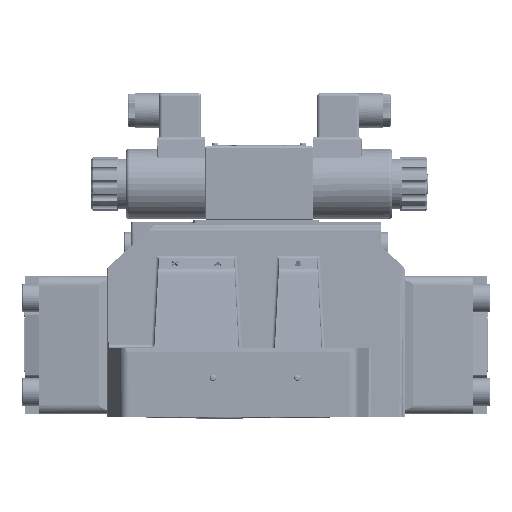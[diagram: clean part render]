
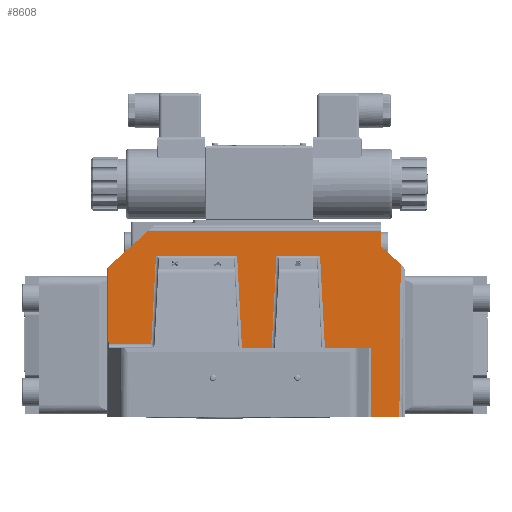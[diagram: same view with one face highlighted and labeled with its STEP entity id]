
A CAD part, front view. The second image highlights one B-rep face of the part: STEP entity #8608.
In plain terms, the highlighted planar face has unit normal (0, -1, 0.017).
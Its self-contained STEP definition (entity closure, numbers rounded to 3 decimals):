
#678=ELLIPSE('',#42687,93.126,1.539);
#679=ELLIPSE('',#42688,242.033,4.);
#4540=FACE_OUTER_BOUND('',#18975,.T.);
#8608=ADVANCED_FACE('',(#4540),#10208,.F.);
#10208=PLANE('',#42689);
#12434=LINE('',#158163,#15198);
#12452=LINE('',#158239,#15216);
#12463=LINE('',#158298,#15227);
#12469=LINE('',#158354,#15233);
#12477=LINE('',#158393,#15241);
#12488=LINE('',#158452,#15252);
#12509=LINE('',#158608,#15273);
#12512=LINE('',#158614,#15276);
#12513=LINE('',#158620,#15277);
#12516=LINE('',#158624,#15280);
#12517=LINE('',#158628,#15281);
#12523=LINE('',#158647,#15287);
#12524=LINE('',#158649,#15288);
#12525=LINE('',#158651,#15289);
#12555=LINE('',#158908,#15319);
#12556=LINE('',#158910,#15320);
#15198=VECTOR('',#50123,1.);
#15216=VECTOR('',#50189,1.);
#15227=VECTOR('',#50244,1.);
#15233=VECTOR('',#50266,1.);
#15241=VECTOR('',#50300,1.);
#15252=VECTOR('',#50329,1.);
#15273=VECTOR('',#50410,1.);
#15276=VECTOR('',#50417,1.);
#15277=VECTOR('',#50424,1.);
#15280=VECTOR('',#50429,1.);
#15281=VECTOR('',#50434,1.);
#15287=VECTOR('',#50464,1.);
#15288=VECTOR('',#50467,1.);
#15289=VECTOR('',#50470,1.);
#15319=VECTOR('',#50570,1.);
#15320=VECTOR('',#50573,1.);
#18975=EDGE_LOOP('',(#26905,#26906,#26907,#26908,#26909,#26910,#26911,#26912,
#26913,#26914,#26915,#26916,#26917,#26918,#26919,#26920,#26921,#26922));
#26905=ORIENTED_EDGE('',*,*,#37223,.F.);
#26906=ORIENTED_EDGE('',*,*,#37489,.T.);
#26907=ORIENTED_EDGE('',*,*,#37475,.F.);
#26908=ORIENTED_EDGE('',*,*,#37391,.T.);
#26909=ORIENTED_EDGE('',*,*,#37403,.T.);
#26910=ORIENTED_EDGE('',*,*,#37415,.T.);
#26911=ORIENTED_EDGE('',*,*,#37401,.T.);
#26912=ORIENTED_EDGE('',*,*,#37257,.T.);
#26913=ORIENTED_EDGE('',*,*,#37398,.T.);
#26914=ORIENTED_EDGE('',*,*,#37414,.T.);
#26915=ORIENTED_EDGE('',*,*,#37395,.T.);
#26916=ORIENTED_EDGE('',*,*,#37284,.F.);
#26917=ORIENTED_EDGE('',*,*,#37474,.T.);
#26918=ORIENTED_EDGE('',*,*,#37299,.T.);
#26919=ORIENTED_EDGE('',*,*,#37490,.F.);
#26920=ORIENTED_EDGE('',*,*,#37319,.F.);
#26921=ORIENTED_EDGE('',*,*,#37340,.F.);
#26922=ORIENTED_EDGE('',*,*,#37416,.F.);
#32610=VERTEX_POINT('',#158162);
#32611=VERTEX_POINT('',#158164);
#32644=VERTEX_POINT('',#158238);
#32645=VERTEX_POINT('',#158240);
#32671=VERTEX_POINT('',#158299);
#32672=VERTEX_POINT('',#158300);
#32686=VERTEX_POINT('',#158353);
#32687=VERTEX_POINT('',#158355);
#32704=VERTEX_POINT('',#158392);
#32705=VERTEX_POINT('',#158394);
#32723=VERTEX_POINT('',#158451);
#32752=VERTEX_POINT('',#158598);
#32755=VERTEX_POINT('',#158609);
#32756=VERTEX_POINT('',#158615);
#32757=VERTEX_POINT('',#158619);
#32758=VERTEX_POINT('',#158625);
#32759=VERTEX_POINT('',#158629);
#32800=VERTEX_POINT('',#158911);
#37223=EDGE_CURVE('',#32610,#32611,#12434,.T.);
#37257=EDGE_CURVE('',#32645,#32644,#12452,.T.);
#37284=EDGE_CURVE('',#32671,#32672,#12463,.T.);
#37299=EDGE_CURVE('',#32687,#32686,#12469,.T.);
#37319=EDGE_CURVE('',#32704,#32705,#12477,.T.);
#37340=EDGE_CURVE('',#32723,#32704,#12488,.T.);
#37391=EDGE_CURVE('',#32755,#32752,#12509,.T.);
#37395=EDGE_CURVE('',#32756,#32672,#12512,.T.);
#37398=EDGE_CURVE('',#32644,#32757,#12513,.T.);
#37401=EDGE_CURVE('',#32758,#32645,#12516,.T.);
#37403=EDGE_CURVE('',#32752,#32759,#12517,.T.);
#37414=EDGE_CURVE('',#32757,#32756,#12523,.T.);
#37415=EDGE_CURVE('',#32759,#32758,#12524,.T.);
#37416=EDGE_CURVE('',#32611,#32723,#12525,.T.);
#37474=EDGE_CURVE('',#32671,#32687,#12555,.T.);
#37475=EDGE_CURVE('',#32755,#32800,#12556,.T.);
#37489=EDGE_CURVE('',#32610,#32800,#678,.T.);
#37490=EDGE_CURVE('',#32705,#32686,#679,.T.);
#42687=AXIS2_PLACEMENT_3D('',#158934,#50595,#50596);
#42688=AXIS2_PLACEMENT_3D('',#158935,#50597,#50598);
#42689=AXIS2_PLACEMENT_3D('',#158936,#50599,#50600);
#50123=DIRECTION('',(0.742,0.011,0.67));
#50189=DIRECTION('',(1.,0.,0.));
#50244=DIRECTION('',(-1.,0.,0.));
#50266=DIRECTION('',(1.,0.,0.));
#50300=DIRECTION('',(0.742,-0.011,-0.67));
#50329=DIRECTION('',(0.,-0.017,-1.));
#50410=DIRECTION('',(1.,0.,0.));
#50417=DIRECTION('',(0.052,-0.017,-0.998));
#50424=DIRECTION('',(0.052,0.017,0.998));
#50429=DIRECTION('',(0.052,-0.017,-0.998));
#50434=DIRECTION('',(0.052,0.017,0.998));
#50464=DIRECTION('',(1.,0.,0.));
#50467=DIRECTION('',(1.,0.,0.));
#50470=DIRECTION('',(1.,0.,0.));
#50570=DIRECTION('',(-0.006,-0.017,-1.));
#50573=DIRECTION('',(-0.006,0.017,1.));
#50595=DIRECTION('',(0.,1.,-0.017));
#50596=DIRECTION('',(0.,-0.017,-1.));
#50597=DIRECTION('',(0.,-1.,0.017));
#50598=DIRECTION('',(0.,-0.017,-1.));
#50599=DIRECTION('',(0.,1.,-0.017));
#50600=DIRECTION('',(1.,0.,0.));
#158162=CARTESIAN_POINT('',(-18.998,4.02,603.85));
#158163=CARTESIAN_POINT('',(-4.703,4.234,616.762));
#158164=CARTESIAN_POINT('',(6.609,4.403,626.98));
#158238=CARTESIAN_POINT('',(85.495,3.171,552.447));
#158239=CARTESIAN_POINT('',(92.042,3.171,552.447));
#158240=CARTESIAN_POINT('',(66.507,3.171,552.447));
#158298=CARTESIAN_POINT('',(134.843,3.171,552.447));
#158299=CARTESIAN_POINT('',(149.288,3.171,552.447));
#158300=CARTESIAN_POINT('',(119.507,3.171,552.447));
#158353=CARTESIAN_POINT('',(167.128,2.435,507.947));
#158354=CARTESIAN_POINT('',(149.387,2.435,507.947));
#158355=CARTESIAN_POINT('',(149.012,2.435,507.947));
#158392=CARTESIAN_POINT('',(155.501,4.237,616.947));
#158393=CARTESIAN_POINT('',(170.544,4.012,603.36));
#158394=CARTESIAN_POINT('',(167.975,4.051,605.68));
#158451=CARTESIAN_POINT('',(155.501,4.403,626.98));
#158452=CARTESIAN_POINT('',(155.501,4.23,616.537));
#158598=CARTESIAN_POINT('',(8.598,3.203,554.414));
#158608=CARTESIAN_POINT('',(-20.537,3.203,554.414));
#158609=CARTESIAN_POINT('',(-18.724,3.203,554.414));
#158614=CARTESIAN_POINT('',(115.338,4.488,632.148));
#158615=CARTESIAN_POINT('',(116.433,4.142,611.212));
#158619=CARTESIAN_POINT('',(88.57,4.142,611.212));
#158620=CARTESIAN_POINT('',(88.078,3.987,601.815));
#158624=CARTESIAN_POINT('',(62.482,4.442,629.384));
#158625=CARTESIAN_POINT('',(63.433,4.142,611.212));
#158628=CARTESIAN_POINT('',(11.111,3.997,602.447));
#158629=CARTESIAN_POINT('',(11.57,4.142,611.212));
#158647=CARTESIAN_POINT('',(149.387,4.142,611.212));
#158649=CARTESIAN_POINT('',(149.387,4.142,611.212));
#158651=CARTESIAN_POINT('',(-19.999,4.403,626.98));
#158908=CARTESIAN_POINT('',(149.793,4.517,633.903));
#158910=CARTESIAN_POINT('',(-19.201,4.501,632.906));
#158911=CARTESIAN_POINT('',(-18.999,3.951,599.652));
#158934=CARTESIAN_POINT('',(-20.537,3.993,602.218));
#158935=CARTESIAN_POINT('',(171.001,1.435,447.463));
#158936=CARTESIAN_POINT('',(149.387,4.518,633.929));
